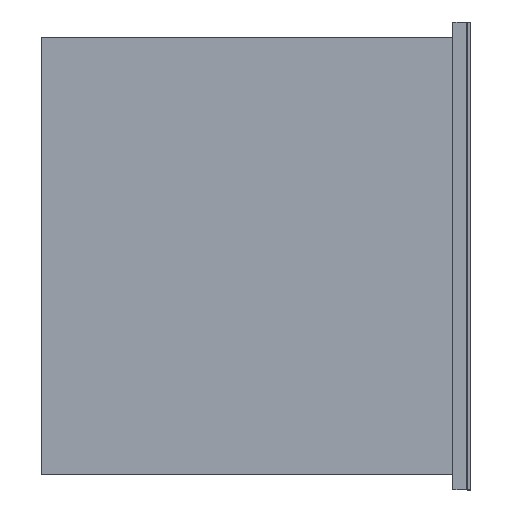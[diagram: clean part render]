
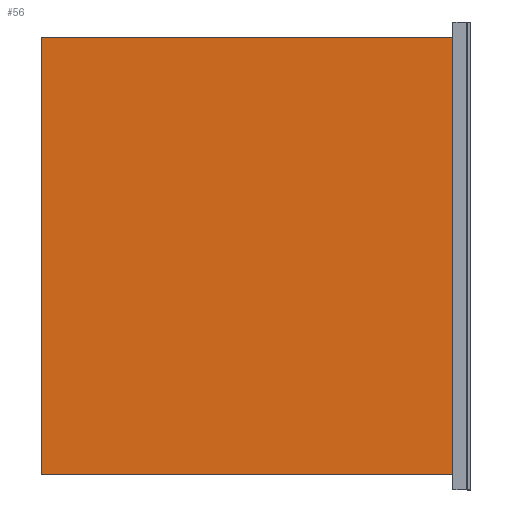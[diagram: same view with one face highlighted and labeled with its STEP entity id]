
A CAD part, top view. The second image highlights one B-rep face of the part: STEP entity #56.
In plain terms, the highlighted free-form (B-spline) face has degree [1, 1] with [2, 2] control points.
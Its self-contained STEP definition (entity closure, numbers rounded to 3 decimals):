
#56=ADVANCED_FACE('',(#74),#242,.T.);
#74=FACE_OUTER_BOUND('',#92,.T.);
#92=EDGE_LOOP('',(#149,#150,#151,#152));
#149=ORIENTED_EDGE('',*,*,#197,.F.);
#150=ORIENTED_EDGE('',*,*,#198,.T.);
#151=ORIENTED_EDGE('',*,*,#199,.T.);
#152=ORIENTED_EDGE('',*,*,#194,.F.);
#194=EDGE_CURVE('',#221,#223,#272,.T.);
#197=EDGE_CURVE('',#225,#221,#275,.T.);
#198=EDGE_CURVE('',#225,#226,#276,.T.);
#199=EDGE_CURVE('',#226,#223,#277,.T.);
#221=VERTEX_POINT('',#466);
#223=VERTEX_POINT('',#468);
#225=VERTEX_POINT('',#470);
#226=VERTEX_POINT('',#471);
#242=B_SPLINE_SURFACE_WITH_KNOTS('',1,1,((#446,#447),(#448,#449)),.UNSPECIFIED.,
.F.,.F.,.F.,(2,2),(2,2),(0.,1.),(0.,1.),.UNSPECIFIED.);
#272=B_SPLINE_CURVE_WITH_KNOTS('',1,(#420,#421),.UNSPECIFIED.,.F.,.F.,(2,
2),(0.,1.),.UNSPECIFIED.);
#275=B_SPLINE_CURVE_WITH_KNOTS('',1,(#426,#427),.UNSPECIFIED.,.F.,.F.,(2,
2),(0.,1.),.UNSPECIFIED.);
#276=B_SPLINE_CURVE_WITH_KNOTS('',1,(#428,#429),.UNSPECIFIED.,.F.,.F.,(2,
2),(0.,1.),.UNSPECIFIED.);
#277=B_SPLINE_CURVE_WITH_KNOTS('',1,(#430,#431),.UNSPECIFIED.,.F.,.F.,(2,
2),(0.,1.),.UNSPECIFIED.);
#420=CARTESIAN_POINT('',(-523.301,-278.484,141.156));
#421=CARTESIAN_POINT('',(-523.301,278.536,141.156));
#426=CARTESIAN_POINT('',(-0.001,-278.484,141.156));
#427=CARTESIAN_POINT('',(-523.301,-278.484,141.156));
#428=CARTESIAN_POINT('',(-0.001,-278.484,141.156));
#429=CARTESIAN_POINT('',(-0.001,278.536,141.156));
#430=CARTESIAN_POINT('',(-0.001,278.536,141.156));
#431=CARTESIAN_POINT('',(-523.301,278.536,141.156));
#446=CARTESIAN_POINT('',(-0.001,-278.484,141.156));
#447=CARTESIAN_POINT('',(-523.301,-278.484,141.156));
#448=CARTESIAN_POINT('',(-0.001,278.536,141.156));
#449=CARTESIAN_POINT('',(-523.301,278.536,141.156));
#466=CARTESIAN_POINT('',(-523.301,-278.484,141.156));
#468=CARTESIAN_POINT('',(-523.301,278.536,141.156));
#470=CARTESIAN_POINT('',(-0.001,-278.484,141.156));
#471=CARTESIAN_POINT('',(-0.001,278.536,141.156));
